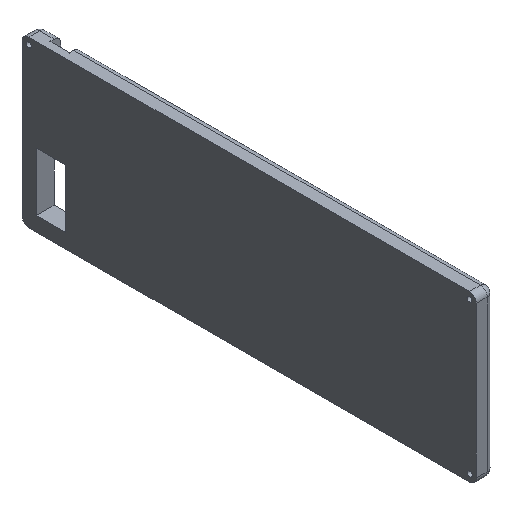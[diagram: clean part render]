
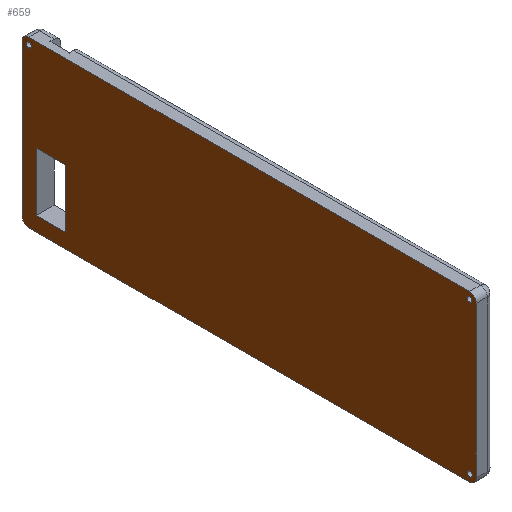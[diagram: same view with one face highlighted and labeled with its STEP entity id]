
A CAD part, isometric view. The second image highlights one B-rep face of the part: STEP entity #659.
In plain terms, the highlighted planar face has unit normal (-1, 0, 0).
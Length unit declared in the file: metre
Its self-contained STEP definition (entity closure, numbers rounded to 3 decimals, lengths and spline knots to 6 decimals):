
#18=CIRCLE('',#705,0.0018);
#21=CIRCLE('',#709,0.0018);
#23=CIRCLE('',#712,0.0018);
#24=CIRCLE('',#717,0.005);
#25=CIRCLE('',#718,0.005);
#26=CIRCLE('',#719,0.005);
#27=CIRCLE('',#720,0.005);
#145=ORIENTED_EDGE('',*,*,#323,.T.);
#146=ORIENTED_EDGE('',*,*,#280,.T.);
#147=ORIENTED_EDGE('',*,*,#307,.F.);
#148=ORIENTED_EDGE('',*,*,#324,.F.);
#149=ORIENTED_EDGE('',*,*,#304,.T.);
#150=ORIENTED_EDGE('',*,*,#299,.T.);
#151=ORIENTED_EDGE('',*,*,#294,.T.);
#152=ORIENTED_EDGE('',*,*,#271,.F.);
#153=ORIENTED_EDGE('',*,*,#325,.T.);
#154=ORIENTED_EDGE('',*,*,#261,.T.);
#155=ORIENTED_EDGE('',*,*,#326,.T.);
#156=ORIENTED_EDGE('',*,*,#308,.T.);
#157=ORIENTED_EDGE('',*,*,#327,.T.);
#158=ORIENTED_EDGE('',*,*,#275,.F.);
#159=ORIENTED_EDGE('',*,*,#328,.T.);
#261=EDGE_CURVE('',#357,#358,#419,.T.);
#271=EDGE_CURVE('',#367,#368,#429,.T.);
#275=EDGE_CURVE('',#371,#372,#433,.T.);
#280=EDGE_CURVE('',#374,#376,#438,.T.);
#294=EDGE_CURVE('',#387,#387,#18,.T.);
#299=EDGE_CURVE('',#392,#392,#21,.T.);
#304=EDGE_CURVE('',#397,#397,#23,.T.);
#307=EDGE_CURVE('',#399,#376,#450,.T.);
#308=EDGE_CURVE('',#400,#401,#451,.T.);
#323=EDGE_CURVE('',#409,#374,#466,.T.);
#324=EDGE_CURVE('',#409,#399,#467,.T.);
#325=EDGE_CURVE('',#367,#357,#24,.F.);
#326=EDGE_CURVE('',#358,#400,#25,.F.);
#327=EDGE_CURVE('',#401,#372,#26,.F.);
#328=EDGE_CURVE('',#371,#368,#27,.F.);
#357=VERTEX_POINT('',#966);
#358=VERTEX_POINT('',#967);
#367=VERTEX_POINT('',#986);
#368=VERTEX_POINT('',#988);
#371=VERTEX_POINT('',#995);
#372=VERTEX_POINT('',#997);
#374=VERTEX_POINT('',#1002);
#376=VERTEX_POINT('',#1006);
#387=VERTEX_POINT('',#1043);
#392=VERTEX_POINT('',#1062);
#397=VERTEX_POINT('',#1084);
#399=VERTEX_POINT('',#1089);
#400=VERTEX_POINT('',#1093);
#401=VERTEX_POINT('',#1094);
#409=VERTEX_POINT('',#1119);
#419=LINE('',#965,#482);
#429=LINE('',#987,#492);
#433=LINE('',#996,#496);
#438=LINE('',#1007,#501);
#450=LINE('',#1090,#513);
#451=LINE('',#1092,#514);
#466=LINE('',#1118,#529);
#467=LINE('',#1120,#530);
#482=VECTOR('',#772,1.);
#492=VECTOR('',#784,1.);
#496=VECTOR('',#790,1.);
#501=VECTOR('',#797,1.);
#513=VECTOR('',#837,1.);
#514=VECTOR('',#840,1.);
#529=VECTOR('',#859,1.);
#530=VECTOR('',#860,1.);
#555=EDGE_LOOP('',(#145,#146,#147,#148));
#556=EDGE_LOOP('',(#149));
#557=EDGE_LOOP('',(#150));
#558=EDGE_LOOP('',(#151));
#559=EDGE_LOOP('',(#152,#153,#154,#155,#156,#157,#158,#159));
#599=FACE_BOUND('',#555,.T.);
#600=FACE_BOUND('',#556,.T.);
#601=FACE_BOUND('',#557,.T.);
#602=FACE_BOUND('',#558,.T.);
#603=FACE_BOUND('',#559,.T.);
#636=PLANE('',#716);
#659=ADVANCED_FACE('',(#599,#600,#601,#602,#603),#636,.F.);
#705=AXIS2_PLACEMENT_3D('',#1042,#817,#818);
#709=AXIS2_PLACEMENT_3D('',#1061,#825,#826);
#712=AXIS2_PLACEMENT_3D('',#1083,#831,#832);
#716=AXIS2_PLACEMENT_3D('',#1117,#857,#858);
#717=AXIS2_PLACEMENT_3D('',#1121,#861,#862);
#718=AXIS2_PLACEMENT_3D('',#1122,#863,#864);
#719=AXIS2_PLACEMENT_3D('',#1123,#865,#866);
#720=AXIS2_PLACEMENT_3D('',#1124,#867,#868);
#772=DIRECTION('',(0.,1.,0.));
#784=DIRECTION('',(0.,0.,-1.));
#790=DIRECTION('',(0.,1.,0.));
#797=DIRECTION('',(0.,1.,0.));
#817=DIRECTION('',(1.,0.,0.));
#818=DIRECTION('',(0.,0.,-1.));
#825=DIRECTION('',(1.,0.,0.));
#826=DIRECTION('',(0.,0.,-1.));
#831=DIRECTION('',(1.,0.,0.));
#832=DIRECTION('',(0.,0.,-1.));
#837=DIRECTION('',(0.,0.,-1.));
#840=DIRECTION('',(0.,0.,-1.));
#857=DIRECTION('',(1.,0.,0.));
#858=DIRECTION('',(0.,1.,0.));
#859=DIRECTION('',(0.,0.,-1.));
#860=DIRECTION('',(0.,1.,0.));
#861=DIRECTION('',(1.,0.,0.));
#862=DIRECTION('',(0.,0.,-1.));
#863=DIRECTION('',(1.,0.,0.));
#864=DIRECTION('',(0.,0.,-1.));
#865=DIRECTION('',(1.,0.,0.));
#866=DIRECTION('',(0.,0.,-1.));
#867=DIRECTION('',(1.,0.,0.));
#868=DIRECTION('',(0.,0.,-1.));
#965=CARTESIAN_POINT('',(0.,-0.005129,0.059661));
#966=CARTESIAN_POINT('',(0.,-0.166629,0.059661));
#967=CARTESIAN_POINT('',(0.,0.156371,0.059661));
#986=CARTESIAN_POINT('',(0.,-0.171629,0.054661));
#987=CARTESIAN_POINT('',(0.,-0.171629,-0.000839));
#988=CARTESIAN_POINT('',(0.,-0.171629,-0.056339));
#995=CARTESIAN_POINT('',(0.,-0.166629,-0.061339));
#996=CARTESIAN_POINT('',(0.,-0.005129,-0.061339));
#997=CARTESIAN_POINT('',(0.,0.156371,-0.061339));
#1002=CARTESIAN_POINT('',(0.,0.129212,-0.050839));
#1006=CARTESIAN_POINT('',(0.,0.150871,-0.050839));
#1007=CARTESIAN_POINT('',(0.,0.139912,-0.050839));
#1042=CARTESIAN_POINT('',(0.,-0.166629,0.054661));
#1043=CARTESIAN_POINT('',(0.,-0.166629,0.052861));
#1061=CARTESIAN_POINT('',(0.,0.156371,0.054661));
#1062=CARTESIAN_POINT('',(0.,0.156371,0.052861));
#1083=CARTESIAN_POINT('',(0.,-0.166879,-0.056082));
#1084=CARTESIAN_POINT('',(0.,-0.166879,-0.057882));
#1089=CARTESIAN_POINT('',(0.,0.150871,-0.008039));
#1090=CARTESIAN_POINT('',(0.,0.150871,0.021629));
#1092=CARTESIAN_POINT('',(0.,0.161371,-0.000839));
#1093=CARTESIAN_POINT('',(0.,0.161371,0.054661));
#1094=CARTESIAN_POINT('',(0.,0.161371,-0.056339));
#1117=CARTESIAN_POINT('',(0.,-0.005129,-0.000839));
#1118=CARTESIAN_POINT('',(0.,0.129212,-0.029439));
#1119=CARTESIAN_POINT('',(0.,0.129212,-0.008039));
#1120=CARTESIAN_POINT('',(0.,0.140042,-0.008039));
#1121=CARTESIAN_POINT('',(0.,-0.166629,0.054661));
#1122=CARTESIAN_POINT('',(0.,0.156371,0.054661));
#1123=CARTESIAN_POINT('',(0.,0.156371,-0.056339));
#1124=CARTESIAN_POINT('',(0.,-0.166629,-0.056339));
